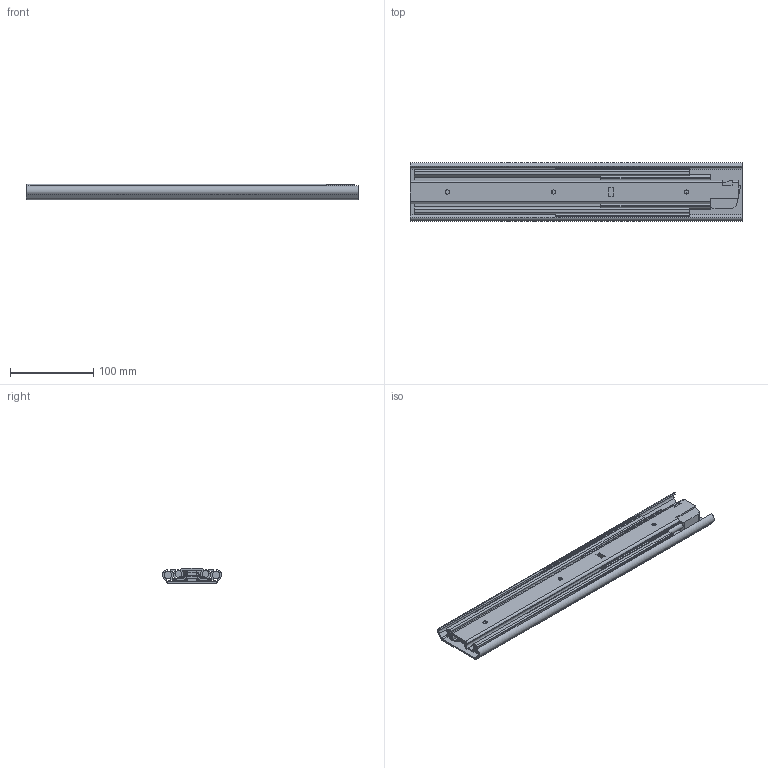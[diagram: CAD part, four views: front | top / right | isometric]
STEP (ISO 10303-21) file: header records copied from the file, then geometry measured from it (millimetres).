
FILE_DESCRIPTION( ( 'STEP AP203' ), '1' );
FILE_NAME( 'C:/Temp/Ganter_Step_05_03_2020/data/3_8/gn1432/Telescopic slide GN 1432-400-B-2-ZB (0).stp', '2020-03-12T15:26:34', ( 'License CC BY-ND 4.0' ), ( 'CADENAS' ), ' ', 'PARTsolutions', ' ' );
FILE_SCHEMA( ( 'CONFIG_CONTROL_DESIGN' ) );
Length unit declared in the file: millimetre
Products named in the file (4): Telescopic slide GN 1432-400-B-2-ZB (0); _Telescopic slide GN 1432-400-B-2-ZB (0)-1; _Telescopic slide GN 1432-400-B-2-ZB (0)-2; _Telescopic slide GN 1432-400-B-2-ZB (0)-3
Assembly tree (3 placements, depth 2):
  Telescopic slide GN 1432-400-B-2-ZB (0)
    _Telescopic slide GN 1432-400-B-2-ZB (0)-1
    _Telescopic slide GN 1432-400-B-2-ZB (0)-2
    _Telescopic slide GN 1432-400-B-2-ZB (0)-3
Bounding box: 400 x 70.88 x 18.4 mm (x, y, z)
Volume: 226040.2 mm3; surface area: 209228.1 mm2
Topology: 3 solids, 3 shells, 303 faces, 882 edges, 579 vertices
Faces by surface type: plane 179, cylinder 117, cone 7
Full cylindrical faces by diameter (mm): 5 x3, 6.5 x4, 11 x3
Entity records: 10108 total; most frequent: CARTESIAN_POINT 1765, ORIENTED_EDGE 1724, DIRECTION 1721, EDGE_CURVE 862, LINE 605, VECTOR 605, VERTEX_POINT 576, AXIS2_PLACEMENT_3D 558
